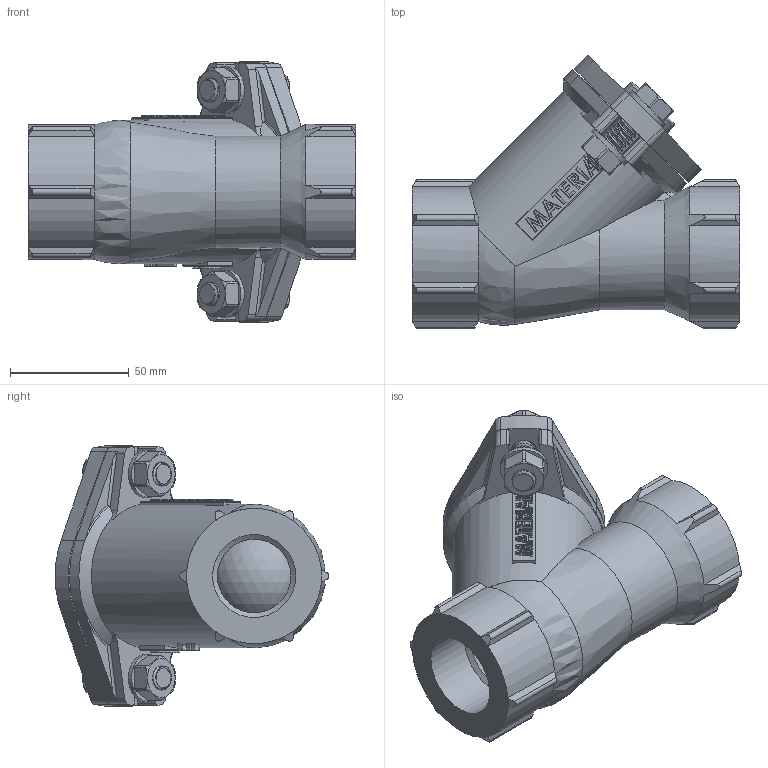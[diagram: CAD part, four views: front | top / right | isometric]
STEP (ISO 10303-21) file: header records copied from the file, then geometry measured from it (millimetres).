
FILE_DESCRIPTION(/* description */ ('Eriks item no: 13371566'),/* implementation_level */ '2;1');
FILE_NAME(/* name */ 'L:\DATA\ENG\Inventor\Econ 3D modellen\terugslagklep\2631\2631-DN25-PN16-NBR-FB.stp',/* time_stamp */ '2022-03-21T09:41:35+01:00',/* author */ ('roger.thijssen'),/* organization */ (''),/* preprocessor_version */ 'ST-DEVELOPER v18',/* originating_system */ 'Autodesk Inventor 2020',/* authorisation */ '');
FILE_SCHEMA (('AUTOMOTIVE_DESIGN { 1 0 10303 214 3 1 1 }'));
Length unit declared in the file: millimetre
Products named in the file (1): Ball check valve, 2631 - 1" BSPP - PN16 - NBR - FB
Bounding box: 138 x 115.39 x 109.8 mm (x, y, z)
Volume: 322216.4 mm3; surface area: 95043.3 mm2
Topology: 8 solids, 8 shells, 665 faces, 1734 edges, 1105 vertices
Faces by surface type: cylinder 311, plane 280, torus 31, bspline 21, cone 18, sphere 4
Full cylindrical faces by diameter (mm): 7.835 x32, 10 x34, 10.2 x2, 10.5 x2, 11 x2, 20 x5, 26 x1, 31 x1, 35 x2, 47 x1, 48 x1, 48.5 x1
Entity records: 29470 total; most frequent: CARTESIAN_POINT 13488, ORIENTED_EDGE 3448, DIRECTION 3230, EDGE_CURVE 1724, AXIS2_PLACEMENT_3D 1180, VERTEX_POINT 1105, LINE 870, VECTOR 870
